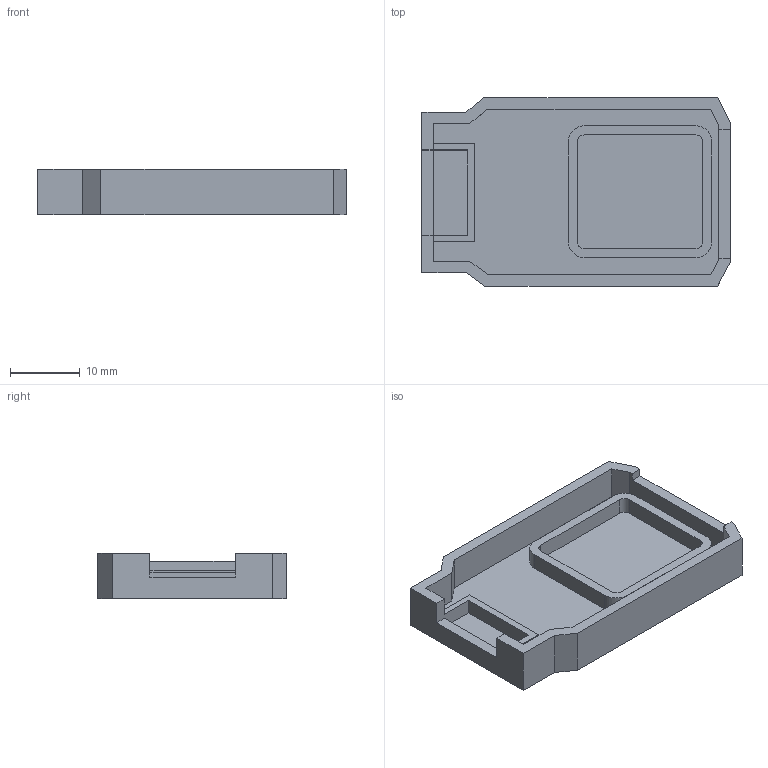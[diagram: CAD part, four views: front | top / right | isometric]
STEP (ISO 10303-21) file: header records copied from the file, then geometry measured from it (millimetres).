
FILE_DESCRIPTION(/* description */ (''),/* implementation_level */ '2;1');
FILE_NAME(/* name */ 'X:\NASBOX\Munkak\OBD_ESP32\housing_1.0\Lower_side_v4.stp',/* time_stamp */ '2022-06-28T14:45:20+02:00',/* author */ ('CRLab5'),/* organization */ (''),/* preprocessor_version */ 'ST-DEVELOPER v16.5',/* originating_system */ 'Autodesk Inventor 2017',/* authorisation */ '');
FILE_SCHEMA (('AUTOMOTIVE_DESIGN { 1 0 10303 214 3 1 1 }'));
Length unit declared in the file: millimetre
Products named in the file (1): Lower_side_v4
Bounding box: 44.21 x 27 x 6.5 mm (x, y, z)
Volume: 3050.2 mm3; surface area: 4148.9 mm2
Topology: 1 solids, 1 shells, 56 faces, 156 edges, 104 vertices
Faces by surface type: plane 48, cylinder 8
Entity records: 1806 total; most frequent: CARTESIAN_POINT 317, ORIENTED_EDGE 312, DIRECTION 286, EDGE_CURVE 156, LINE 140, VECTOR 140, VERTEX_POINT 104, AXIS2_PLACEMENT_3D 73
